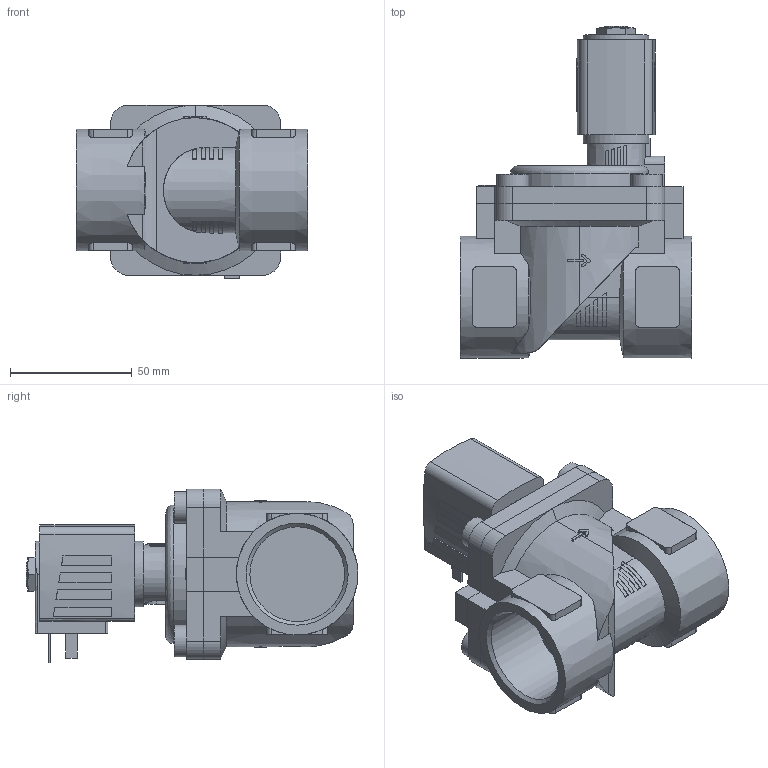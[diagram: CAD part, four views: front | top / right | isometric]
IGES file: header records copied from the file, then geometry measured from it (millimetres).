
Start section: Data from Parasolid IGES Translator 26.0.171, Copyright(c) 2006 Siemens PLM Software. All Rights Reserved.
Global section: file name: 6281-248021-2_2-Way_Solenoid_Valve__Servo-assisted__General_Purpose.igs; native system: By Siemens PLM Incorporated; preprocessor: XPlus GENERIC/IGES 26.0.171; author: Noname; organization: Noname; date: 20240624.121327; units: millimetre
Bounding box: 95 x 136.5 x 71.5 mm (x, y, z)
Surface area: 60780 mm2 (no closed solid volume)
Topology: 0 solids, 0 shells, 349 faces, 1832 edges, 1825 vertices
Faces by surface type: extrusion 233, revolution 116
